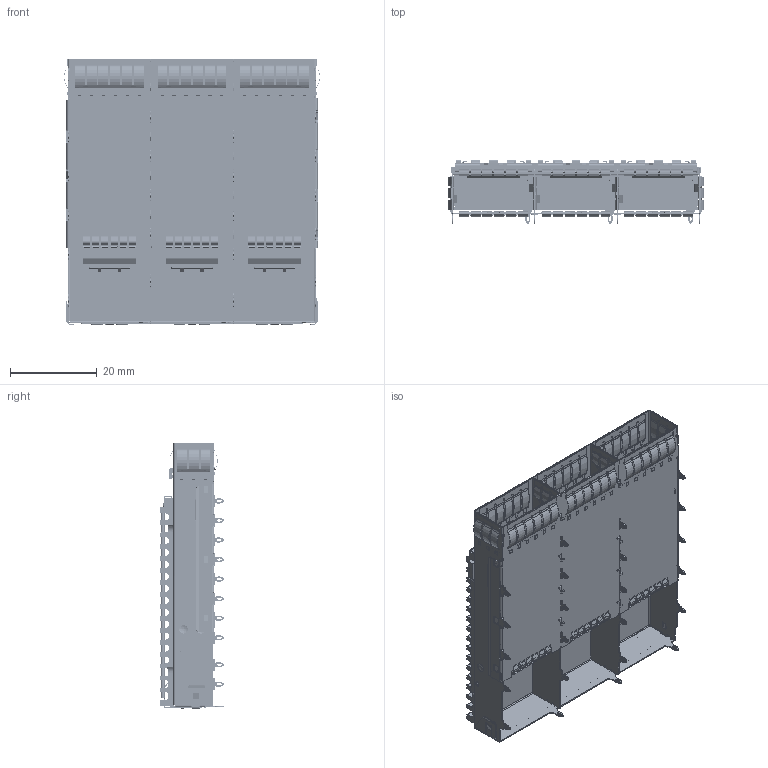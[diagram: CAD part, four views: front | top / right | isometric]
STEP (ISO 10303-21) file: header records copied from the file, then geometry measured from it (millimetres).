
FILE_DESCRIPTION (( 'STEP AP203' ), '1' );
FILE_NAME ('錨璃2^蚾饜极1.STEP', '2025-04-10T12:27:25', ( '' ), ( '' ), 'SwSTEP 2.0', 'SolidWorks 2018', '' );
FILE_SCHEMA (( 'CONFIG_CONTROL_DESIGN' ));
Products named in the file (1): 錨璃2^蚾饜极1
Bounding box: 58.91 x 14.85 x 61.37 mm (x, y, z)
Volume: 7487.7 mm3; surface area: 25458.7 mm2
Topology: 1 solids, 7 shells, 7142 faces, 19287 edges, 12088 vertices
Faces by surface type: plane 4304, cylinder 2600, bspline 185, sphere 44, torus 9
Entity records: 229779 total; most frequent: CARTESIAN_POINT 47331, ORIENTED_EDGE 38550, DIRECTION 38518, EDGE_CURVE 19275, AXIS2_PLACEMENT_3D 13063, VECTOR 12392, LINE 12392, VERTEX_POINT 12088
